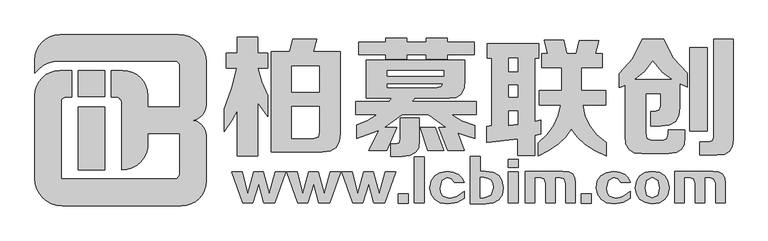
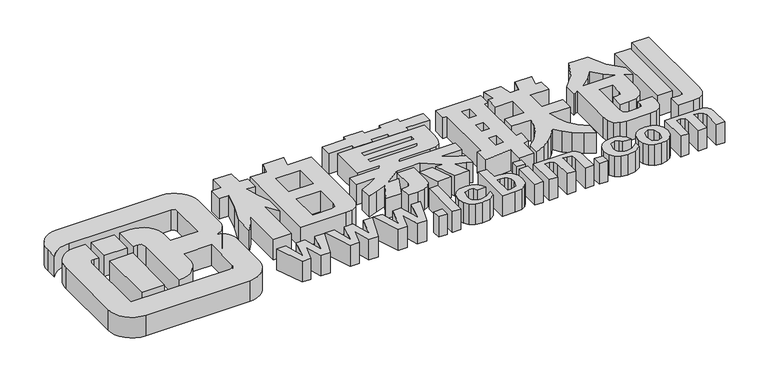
"""IFC4 building model written with IfcOpenShell, lengths in millimetres: proxy geometry, 柏慕联创LOGO横向小 : 柏慕联创LOGO横向小."""

from ifc_helpers import new_model, si_unit, point, frame_2d, origin, origin_with_axes, place, context, project, spatial, polyline, circle_curve, trimmed, segment, composite_curve, outline, extrude, source, transform, mapped, element, save


def generic_models_b82000e3(model_context):
    return source(origin(), model_context, "Body", "SweptSolid", [
        extrude(outline(polyline([(-216.7024106, -110.0159445), (-238.6203316, -172.1401158), (-260.1371927, -172.1401158), (-270.7051199, -133.9792707), (-282.4762266, -172.1401158), (-302.7899082, -172.1401158), (-324.7078292, -110.0159445), (-303.9930877, -110.0159445), (-292.221981, -153.4707796), (-280.4508743, -110.0159445), (-261.3604253, -110.0159445), (-249.1882587, -153.4707796), (-237.397099, -110.0159445), (-216.7024106, -110.0159445)])), origin_with_axes(), (0.0, 0.0, 1.0), 50.0),
        extrude(outline(polyline([(-106.3307389, -110.0159445), (-128.2486599, -172.1401158), (-149.7655211, -172.1401158), (-160.3334482, -133.9792707), (-172.1045549, -172.1401158), (-192.4182365, -172.1401158), (-214.3361575, -110.0159445), (-193.621416, -110.0159445), (-181.8503093, -153.4707796), (-170.0792026, -110.0159445), (-150.9887536, -110.0159445), (-138.8165871, -153.4707796), (-127.0254274, -110.0159445), (-106.3307389, -110.0159445)])), origin_with_axes(), (0.0, 0.0, 1.0), 50.0),
        extrude(outline(polyline([(4.0409328, -110.0159445), (-17.8769882, -172.1401158), (-39.3938494, -172.1401158), (-49.9617765, -133.9792707), (-61.7328832, -172.1401158), (-82.0465648, -172.1401158), (-103.9644858, -110.0159445), (-83.2497443, -110.0159445), (-71.4786376, -153.4707796), (-59.7075309, -110.0159445), (-40.6170819, -110.0159445), (-28.4449154, -153.4707796), (-16.6537557, -110.0159445), (4.0409328, -110.0159445)])), origin_with_axes(), (0.0, 0.0, 1.0), 50.0),
        extrude(outline(polyline([(29.1472796, -172.9622885), (9.6557707, -172.9622885), (9.6557707, -153.8718395), (29.1472796, -153.8718395), (29.1472796, -172.9622885)])), origin_with_axes(), (0.0, 0.0, 1.0), 50.0),
        extrude(outline(polyline([(61.0916969, -171.7390559), (41.6001881, -171.7390559), (41.6001881, -79.1543888), (61.0916969, -79.1543888), (61.0916969, -171.7390559)])), origin_with_axes(), (0.0, 0.0, 1.0), 50.0),
        extrude(outline(polyline([(141.1632967, -131.1317458), (122.0728477, -131.1317458), (116.6986456, -123.521635), (107.8753289, -120.9849315), (96.4952555, -126.6649416), (92.4345245, -142.1007328), (93.7542621, -150.9791953), (97.7134748, -157.3209542), (104.3121627, -161.1260096), (113.5503258, -162.3943614), (127.1512681, -158.9452466), (141.1632967, -148.5979024), (141.1632967, -162.3943614), (127.3568112, -171.2377311), (108.6774486, -174.185521), (93.778075, -171.5197263), (82.789035, -165.1466346), (75.7103286, -155.0662458), (72.5419558, -141.2785601), (75.2090038, -127.3743163), (81.9869153, -117.3252603), (92.8756903, -111.1313922), (107.8753289, -108.7927119), (119.8519787, -110.1889015), (129.39219, -114.3774704), (136.4959627, -121.3584185), (141.1632967, -131.1317458)])), origin_with_axes(), (0.0, 0.0, 1.0), 50.0),
        extrude(outline(polyline([(184.5379199, -173.7644082), (154.077424, -173.7644082), (154.077424, -78.7533289), (173.5689329, -78.7533289), (173.5689329, -108.3916521), (184.5379199, -108.3916521), (199.8120337, -110.4734034), (210.722115, -116.7186573), (217.2681638, -127.1274138), (219.4501801, -141.6996729), (217.4185613, -155.8859119), (210.922645, -165.9587808), (199.9624312, -171.9182796), (184.5379199, -173.7644082)]), holes=[polyline([(180.4671623, -120.9849315), (173.5689329, -120.9849315), (173.5689329, -161.9933015), (180.8682222, -161.9933015), (195.186059, -157.0201593), (199.9586712, -142.1007328), (198.8908494, -132.7121723), (195.2863239, -126.0633519), (189.1450949, -122.1542716), (180.4671623, -120.9849315)])]), origin_with_axes(), (0.0, 0.0, 1.0), 50.0),
        extrude(outline(polyline([(249.750252, -100.6712499), (230.2587432, -100.6712499), (230.2587432, -84.8494387), (249.750252, -84.8494387), (249.750252, -100.6712499)])), origin_with_axes(), (0.0, 0.0, 1.0), 50.0),
        extrude(outline(polyline([(249.750252, -172.1401158), (230.2587432, -172.1401158), (230.2587432, -110.0159445), (249.750252, -110.0159445), (249.750252, -172.1401158)])), origin_with_axes(), (0.0, 0.0, 1.0), 50.0),
        extrude(outline(polyline([(364.754165, -172.1401158), (345.663716, -172.1401158), (345.663716, -133.157098), (342.2146013, -124.0279731), (332.6693768, -120.9849315), (323.725742, -120.9849315), (323.725742, -172.1401158), (304.655346, -172.1401158), (304.655346, -132.3549783), (301.7075561, -123.8274432), (292.8641863, -120.9849315), (282.717372, -120.9849315), (282.717372, -172.1401158), (263.626923, -172.1401158), (263.626923, -108.7927119), (339.5676062, -108.7927119), (350.8875206, -109.9131729), (358.8585852, -114.0766755), (363.4808, -121.2832197), (364.754165, -131.5328056), (364.754165, -172.1401158)])), origin_with_axes(), (0.0, 0.0, 1.0), 50.0),
        extrude(outline(polyline([(396.1972576, -172.9622885), (376.7057487, -172.9622885), (376.7057487, -153.8718395), (396.1972576, -153.8718395), (396.1972576, -172.9622885)])), origin_with_axes(), (0.0, 0.0, 1.0), 50.0),
        extrude(outline(polyline([(474.8450948, -131.1317458), (455.7546458, -131.1317458), (450.3804438, -123.521635), (441.557127, -120.9849315), (430.1770536, -126.6649416), (426.1163226, -142.1007328), (427.4360602, -150.9791953), (431.395273, -157.3209542), (437.9939609, -161.1260096), (447.2321239, -162.3943614), (460.8330662, -158.9452466), (474.8450948, -148.5979024), (474.8450948, -162.3943614), (461.0386094, -171.2377311), (442.3592467, -174.185521), (427.4598731, -171.5197263), (416.4708332, -165.1466346), (409.3921267, -155.0662458), (406.2237539, -141.2785601), (408.8908019, -127.3743163), (415.6687134, -117.3252603), (426.5574885, -111.1313922), (441.557127, -108.7927119), (453.5337769, -110.1889015), (463.0739881, -114.3774704), (470.1777608, -121.3584185), (474.8450948, -131.1317458)])), origin_with_axes(), (0.0, 0.0, 1.0), 50.0),
        extrude(outline(polyline([(552.7309184, -141.6996729), (550.1403224, -155.2768023), (543.591767, -165.1466346), (533.0852521, -171.3091699), (518.6207778, -173.7644082), (504.306701, -171.1512526), (493.8503186, -164.9360782), (487.2516307, -155.1188849), (484.5106373, -141.6996729), (487.276697, -127.586126), (493.9505836, -117.3302736), (504.5322972, -110.9321156), (519.0218377, -108.3916521), (533.3108483, -110.7817181), (543.6920319, -117.1297436), (550.1653886, -127.4357286), (552.7309184, -141.6996729)]), holes=[polyline([(533.2394095, -141.6996729), (529.3842217, -126.3641468), (518.6207778, -120.9849315), (507.957599, -126.1636168), (504.403206, -141.6996729), (508.1581289, -156.7193644), (518.6207778, -161.9933015), (529.5847516, -156.9198944), (533.2394095, -141.6996729)])]), origin_with_axes(), (0.0, 0.0, 1.0), 50.0),
        extrude(outline(polyline([(665.0677834, -172.1401158), (645.9773343, -172.1401158), (645.9773343, -133.157098), (642.5282196, -124.0279731), (632.9829951, -120.9849315), (624.0393603, -120.9849315), (624.0393603, -172.1401158), (604.9689643, -172.1401158), (604.9689643, -132.3549783), (602.0211744, -123.8274432), (593.1778046, -120.9849315), (583.0309903, -120.9849315), (583.0309903, -172.1401158), (563.9405413, -172.1401158), (563.9405413, -108.7927119), (639.8812246, -108.7927119), (651.2011389, -109.9131729), (659.1722035, -114.0766755), (663.7944183, -121.2832197), (665.0677834, -131.5328056), (665.0677834, -172.1401158)])), origin_with_axes(), (0.0, 0.0, 1.0), 50.0),
        extrude(outline(polyline([(-245.9456667, -69.3101638), (-245.9456667, 131.7566818), (-208.3247485, 131.7566818), (-204.274044, 149.1747113), (-202.2486917, 157.3773879), (-154.4503784, 157.3773879), (-161.5897451, 131.7566818), (-106.7026988, 131.7566818), (-106.7026988, -32.1955836), (-108.6109604, -48.812966), (-115.3484213, -60.5378568), (-126.9150815, -67.3702561), (-143.3109409, -69.3101638), (-245.9456667, -69.3101638)]), holes=[polyline([(-203.9196073, 102.9966797), (-203.9196073, 51.2489295), (-148.7287582, 51.2489295), (-148.7287582, 102.9966797), (-203.9196073, 102.9966797)]), polyline([(-148.7287582, -29.0056538), (-148.7287582, 21.4762513), (-203.9196073, 21.4762513), (-203.9196073, -42.6767816), (-159.766928, -42.6767816), (-150.9566457, -39.2589996), (-148.7287582, -29.0056538)])]), origin_with_axes(), (0.0, 0.0, 1.0), 50.0),
        extrude(outline(polyline([(-336.0232085, 99.2497781), (-336.0232085, 129.0224563), (-313.4911646, 129.0224563), (-313.4911646, 160.8204868), (-272.4777813, 160.8204868), (-272.4777813, 129.0224563), (-252.9837658, 129.0224563), (-252.9837658, 99.2497781), (-272.4777813, 99.2497781), (-264.5156153, 71.0467478), (-252.9837658, 43.8563937), (-252.9837658, 1.8303343), (-272.4777813, 29.5270265), (-272.4777813, -77.10777), (-313.4911646, -77.10777), (-313.4911646, 14.1343493), (-324.7571866, -6.6255113), (-340.1245468, -27.8917101), (-340.1245468, 17.2230115), (-325.0103556, 58.7427329), (-314.5038407, 99.2497781), (-336.0232085, 99.2497781)])), origin_with_axes(), (0.0, 0.0, 1.0), 50.0),
        extrude(outline(polyline([(83.0221742, -19.9928363), (100.4402036, -66.120234), (68.6421731, -66.120234), (53.2494959, -19.9928363), (83.0221742, -19.9928363)])), origin_with_axes(), (0.0, 0.0, 1.0), 50.0),
        extrude(outline(polyline([(13.704493, -1.1064264), (51.6798479, -1.1064264), (51.6798479, -47.2338242), (49.8791832, -61.0821702), (43.4645128, -70.829178), (32.4358368, -76.4748474), (16.7931552, -78.0191785), (-5.7895225, -78.0191785), (-5.7895225, -53.4111486), (3.4258303, -53.4111486), (11.6411654, -51.1073104), (13.704493, -44.1957958), (13.704493, -1.1064264)])), origin_with_axes(), (0.0, 0.0, 1.0), 50.0),
        extrude(outline(polyline([(-15.86565, 117.4273146), (-15.86565, 125.6299913), (-70.1957243, 125.6299913), (-70.1957243, 151.2506973), (-15.86565, 151.2506973), (-15.86565, 159.453374), (26.1604094, 159.453374), (26.1604094, 151.2506973), (65.1484405, 151.2506973), (65.1484405, 159.453374), (107.1744999, 159.453374), (107.1744999, 151.2506973), (161.5045742, 151.2506973), (161.5045742, 125.6299913), (107.1744999, 125.6299913), (107.1744999, 117.4273146), (65.1484405, 117.4273146), (65.1484405, 125.6299913), (26.1604094, 125.6299913), (26.1604094, 117.4273146), (-15.86565, 117.4273146)])), origin_with_axes(), (0.0, 0.0, 1.0), 50.0),
        extrude(outline(polyline([(-74.1957951, -42.828683), (-74.1957951, -15.5370613), (-51.5498251, -6.1698071), (-32.9292427, 5.7291374), (-76.2717811, 5.7291374), (-76.2717811, 31.3498435), (-8.9794523, 31.3498435), (-3.814804, 38.5398441), (-54.7524134, 38.5398441), (-54.7524134, 115.1994271), (142.8206996, 115.1994271), (142.8206996, 75.8569595), (141.6308052, 58.7712144), (136.0357696, 46.8564468), (126.0355928, 40.1126567), (111.6302748, 38.5398441), (41.9581571, 38.5398441), (39.882171, 35.4511819), (36.742875, 31.3498435), (165.3527435, 31.3498435), (165.3527435, 5.7291374), (115.782247, 5.7291374), (136.7826182, -7.4356523), (162.3147151, -16.5497374), (162.3147151, -42.828683), (150.0107002, -38.7779785), (128.2381634, -31.6892456), (141.7573897, -66.120234), (108.4909788, -66.120234), (90.8197804, -20.6004419), (105.4023166, -20.6004419), (68.9966098, 5.7291374), (16.9956905, 5.7291374), (-18.3467065, -19.9422025), (6.6157601, -19.9422025), (-14.1947343, -66.120234), (-49.5371313, -66.120234), (-29.7899467, -26.6764987), (-54.7524134, -35.7399501), (-74.1957951, -42.828683)]), holes=[polyline([(86.718442, 60.1098456), (94.6552912, 61.8440535), (98.0097809, 67.0466771), (-12.726354, 67.0466771), (-12.726354, 60.1098456), (86.718442, 60.1098456)]), polyline([(-12.726354, 93.6294255), (-12.726354, 83.4520304), (100.7946402, 83.4520304), (100.7946402, 93.6294255), (-12.726354, 93.6294255)])]), origin_with_axes(), (0.0, 0.0, 1.0), 50.0),
        extrude(outline(polyline([(187.986055, 119.1994978), (187.986055, 147.9594999), (291.1271189, 147.9594999), (291.1271189, 119.1994978), (282.9244423, 119.1994978), (282.9244423, -7.9419903), (295.2284572, -4.8533281), (295.2284572, -33.5626964), (282.9244423, -36.6513586), (282.9244423, -76.6520657), (249.1010595, -76.6520657), (249.1010595, -43.8413591), (186.9733789, -49.9680497), (186.9733789, -18.220653), (192.0873934, -17.1573431), (197.2520416, -17.1573431), (197.2520416, 119.1994978), (187.986055, 119.1994978)]), holes=[polyline([(231.0754244, -15.9421317), (249.1010595, -13.8661457), (249.1010595, 12.7672365), (231.0754244, 12.7672365), (231.0754244, -15.9421317)]), polyline([(231.0754244, 64.6162544), (231.0754244, 40.5145625), (249.1010595, 40.5145625), (249.1010595, 64.6162544), (231.0754244, 64.6162544)]), polyline([(231.0754244, 119.1994978), (231.0754244, 92.3635804), (249.1010595, 92.3635804), (249.1010595, 119.1994978), (231.0754244, 119.1994978)])]), origin_with_axes(), (0.0, 0.0, 1.0), 50.0),
        extrude(outline(polyline([(296.7981052, 99.7561161), (296.7981052, 128.5161182), (309.1021202, 128.5161182), (301.9121197, 155.2001343), (340.8495169, 155.2001343), (347.0268413, 128.5161182), (366.470223, 128.5161182), (372.6475474, 154.1874581), (411.6355784, 154.1874581), (410.5722685, 150.0861198), (404.4455779, 128.5161182), (418.7749451, 128.5161182), (418.7749451, 99.7561161), (376.7488857, 99.7561161), (376.7488857, 53.983155), (424.9522695, 53.983155), (424.9522695, 25.2231529), (378.8248718, 25.2231529), (383.3091283, 3.9442958), (392.6605594, -15.7902303), (406.8791652, -33.9804253), (425.9649456, -50.6262892), (425.9649456, -77.3103052), (403.5310047, -66.6044198), (384.4325658, -53.9807789), (368.669629, -39.4393826), (356.2421941, -22.9802309), (344.7673077, -39.059629), (329.836664, -53.4744408), (311.450263, -66.2246662), (289.6081047, -77.3103052), (289.6081047, -51.6895991), (307.8077935, -34.5785372), (321.3934767, -16.0560578), (330.3651543, 3.8778389), (334.7228263, 25.2231529), (291.633457, 25.2231529), (291.633457, 53.983155), (336.7481786, 53.983155), (336.7481786, 99.7561161), (296.7981052, 99.7561161)])), origin_with_axes(), (0.0, 0.0, 1.0), 50.0),
        extrude(outline(polyline([(498.2193875, 157.4280217), (541.4606583, 157.4280217), (561.0432829, 118.7058182), (588.8032674, 88.7179463), (588.8032674, 61.0212541), (573.4105902, 68.2112547), (573.4105902, 21.020547), (572.1953788, 3.6499868), (565.4610826, -8.4609868), (553.2077014, -15.3123738), (535.4352353, -16.9041741), (515.9412198, -16.9041741), (515.9412198, 11.855828), (524.1438965, 11.855828), (533.1187387, 14.6913212), (535.4352353, 23.1978007), (535.4352353, 47.9070983), (505.2574866, 47.9070983), (505.2574866, -31.4867103), (507.7385431, -42.8160245), (517.3083326, -45.9173452), (539.435306, -45.9173452), (548.2202714, -43.3476795), (550.4734758, -33.6133302), (550.4734758, -25.4106536), (584.2968586, -25.4106536), (584.2968586, -39.7400208), (582.641766, -54.4934462), (576.6638123, -64.8797057), (566.3629972, -70.8987995), (551.739321, -72.5507274), (497.8143171, -72.5507274), (482.7286073, -71.0760178), (472.1050018, -64.5759029), (465.9435005, -53.0503827), (464.2441034, -36.4994572), (464.2441034, 65.1225925), (458.066779, 62.0339303), (452.9527645, 60.008578), (452.9527645, 87.7052702), (479.6874143, 117.9463111), (498.2193875, 157.4280217)]), holes=[polyline([(519.7893891, 112.5664692), (503.9156908, 92.3002881), (484.9533302, 76.6671004), (556.701434, 76.6671004), (537.7264151, 91.287612), (519.7893891, 112.5664692)])]), origin_with_axes(), (0.0, 0.0, 1.0), 50.0),
        extrude(outline(polyline([(641.8674966, 156.9216837), (680.8555276, 156.9216837), (680.8555276, -44.0438944), (679.2035997, -58.3321216), (673.1845059, -68.3860968), (662.7982464, -74.20582), (648.044821, -75.791291), (614.1708044, -75.791291), (614.1708044, -49.1579088), (632.6521438, -49.1579088), (639.5636584, -46.8540706), (641.8674966, -39.942556), (641.8674966, 156.9216837)])), origin_with_axes(), (0.0, 0.0, 1.0), 50.0),
        extrude(outline(polyline([(593.7147466, -27.132203), (593.7147466, 140.0099923), (628.5508055, 140.0099923), (628.5508055, -27.132203), (593.7147466, -27.132203)])), origin_with_axes(), (0.0, 0.0, 1.0), 50.0),
        extrude(outline(polyline([(-579.58802, 93.7895283), (-579.58802, 41.4655154), (-632.1693418, 41.4655154), (-632.1693418, 93.7895283), (-579.58802, 93.7895283)])), origin_with_axes(), (0.0, 0.0, 1.0), 50.0),
        extrude(outline(polyline([(-579.58802, 20.9793816), (-579.58802, -105.7111827), (-632.1693418, -105.7111827), (-632.1693418, 20.9793816), (-579.58802, 20.9793816)])), origin_with_axes(), (0.0, 0.0, 1.0), 50.0),
        extrude(outline(composite_curve([segment(trimmed(circle_curve(frame_2d((-430.7529388, 110.8733435)), 55.0), [point((-430.7529388, 165.8733435))], [point((-375.7529388, 110.8733435))], False, "CARTESIAN"), True, "CONTINUOUS"), segment(polyline([(-375.7529388, 110.8733435), (-375.7529388, 24.6326931)]), True, "CONTINUOUS"), segment(trimmed(circle_curve(frame_2d((-408.4543467, 26.2639407)), 32.7420685), [point((-375.7529388, 24.6326931))], [point((-402.2578532, -5.8864329))], False, "CARTESIAN"), True, "CONTINUOUS"), segment(trimmed(circle_curve(frame_2d((-408.4543467, -38.0368064)), 32.7420685), [point((-402.2578532, -5.8864329))], [point((-375.7529388, -36.4055589))], False, "CARTESIAN"), True, "CONTINUOUS"), segment(polyline([(-375.7529388, -36.4055589), (-375.7529388, -127.9736177)]), True, "CONTINUOUS"), segment(trimmed(circle_curve(frame_2d((-425.7529388, -127.9736177)), 50.0), [point((-375.7529388, -127.9736177))], [point((-425.7529388, -177.9736177))], False, "CARTESIAN"), True, "CONTINUOUS"), segment(polyline([(-425.7529388, -177.9736177), (-664.5029388, -177.9736177)]), True, "CONTINUOUS"), segment(trimmed(circle_curve(frame_2d((-664.5029388, -122.9736177)), 55.0), [point((-664.5029388, -177.9736177))], [point((-719.5029388, -122.9736177))], False, "CARTESIAN"), True, "CONTINUOUS"), segment(polyline([(-719.5029388, -122.9736177), (-719.5029388, 43.9752653)]), True, "CONTINUOUS"), segment(trimmed(circle_curve(frame_2d((-669.5029388, 43.9752653)), 50.0), [point((-719.5029388, 43.9752653))], [point((-669.5029388, 93.9752653))], False, "CARTESIAN"), True, "CONTINUOUS"), segment(polyline([(-669.5029388, 93.9752653), (-645.7529388, 93.9752653), (-645.7529388, 40.8502653), (-657.0029388, 40.8502653)]), True, "CONTINUOUS"), segment(trimmed(circle_curve(frame_2d((-657.0029388, 30.8502653)), 10.0), [point((-657.0029388, 40.8502653))], [point((-667.0029388, 30.8502653))], True, "CARTESIAN"), True, "CONTINUOUS"), segment(polyline([(-667.0029388, 30.8502653), (-667.0029388, -124.1173069), (-440.7553031, -124.1173069)]), True, "CONTINUOUS"), segment(trimmed(circle_curve(frame_2d((-440.7553031, -112.6025287)), 11.5147782), [point((-440.7553031, -124.1173069))], [point((-429.2405249, -112.6025287))], True, "CARTESIAN"), True, "CONTINUOUS"), segment(polyline([(-429.2405249, -112.6025287), (-429.2405249, -31.9460006), (-492.8865876, -31.9460006), (-492.8865876, -61.9460006)]), True, "CONTINUOUS"), segment(trimmed(circle_curve(frame_2d((-545.2550611, -52.0717684)), 53.2912514), [point((-492.8865876, -61.9460006))], [point((-545.3560893, -105.362924))], False, "CARTESIAN"), True, "CONTINUOUS"), segment(polyline([(-545.3560893, -105.362924), (-545.3560893, 28.7128472)]), True, "CONTINUOUS"), segment(trimmed(circle_curve(frame_2d((-557.4036603, 28.7128472)), 12.0475711), [point((-545.3560893, 28.7128472))], [point((-557.4036603, 40.7604183))], True, "CARTESIAN"), True, "CONTINUOUS"), segment(polyline([(-557.4036603, 40.7604183), (-566.5866967, 40.7604183), (-566.5866967, 93.9752653), (-542.8865876, 93.9752653)]), True, "CONTINUOUS"), segment(trimmed(circle_curve(frame_2d((-542.8865876, 43.9752653)), 50.0), [point((-542.8865876, 93.9752653))], [point((-492.8865876, 43.9752653))], False, "CARTESIAN"), True, "CONTINUOUS"), segment(polyline([(-492.8865876, 43.9752653), (-492.8865876, 20.9001562), (-429.2405249, 20.9001562), (-429.2405249, 103.3048103)]), True, "CONTINUOUS"), segment(trimmed(circle_curve(frame_2d((-439.2405249, 103.3048103)), 10.0), [point((-429.2405249, 103.3048103))], [point((-439.2405249, 113.3048103))], True, "CARTESIAN"), True, "CONTINUOUS"), segment(polyline([(-439.2405249, 113.3048103), (-672.1383901, 113.3048103)]), True, "CONTINUOUS"), segment(trimmed(circle_curve(frame_2d((-672.1383901, 55.0355902)), 58.2692202), [point((-672.1383901, 113.3048103))], [point((-719.5029388, 88.9752653))], True, "CARTESIAN"), True, "CONTINUOUS"), segment(polyline([(-719.5029388, 88.9752653), (-719.5029388, 115.8733435)]), True, "CONTINUOUS"), segment(trimmed(circle_curve(frame_2d((-669.5029388, 115.8733435)), 50.0), [point((-719.5029388, 115.8733435))], [point((-669.5029388, 165.8733435))], False, "CARTESIAN"), True, "CONTINUOUS"), segment(polyline([(-669.5029388, 165.8733435), (-430.7529388, 165.8733435)]), True, "CONTINUOUS")], self_intersect=False)), origin_with_axes(), (0.0, 0.0, 1.0), 50.0),
    ])


if __name__ == "__main__":
    model = new_model("IFC4")
    model_context = context("Model", 3, world=origin())
    ifc_project = project(units=[si_unit("LENGTHUNIT", "METRE", prefix="MILLI")], contexts=[model_context])
    site = spatial("IfcSite", under=ifc_project)
    building = spatial("IfcBuilding", under=site)
    placement = place(None, origin())
    generic_models_shape = generic_models_b82000e3(model_context)
    element("IfcBuildingElementProxy", 1, Name="柏慕联创LOGO横向小 : 柏慕联创LOGO横向小", ObjectType="柏慕联创LOGO横向小 : 柏慕联创LOGO横向小", at=placement, inside=building, context=model_context, shape_type="MappedRepresentation", body=[
        mapped(generic_models_shape, transform((0.0, 0.0, 0.0), x_axis=(1.0, 0.0, 0.0), y_axis=(0.0, 1.0, 0.0), z_axis=(0.0, 0.0, 1.0))),
    ])
    save(model, "model.ifc")
